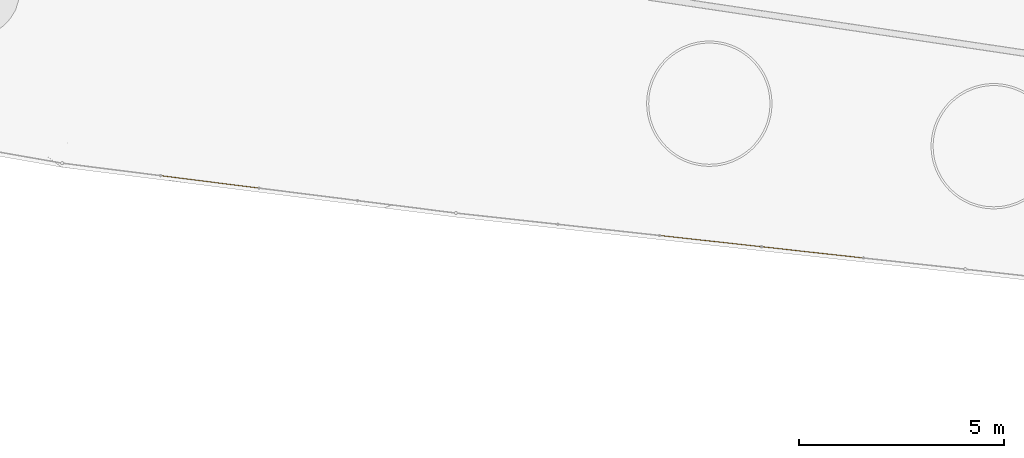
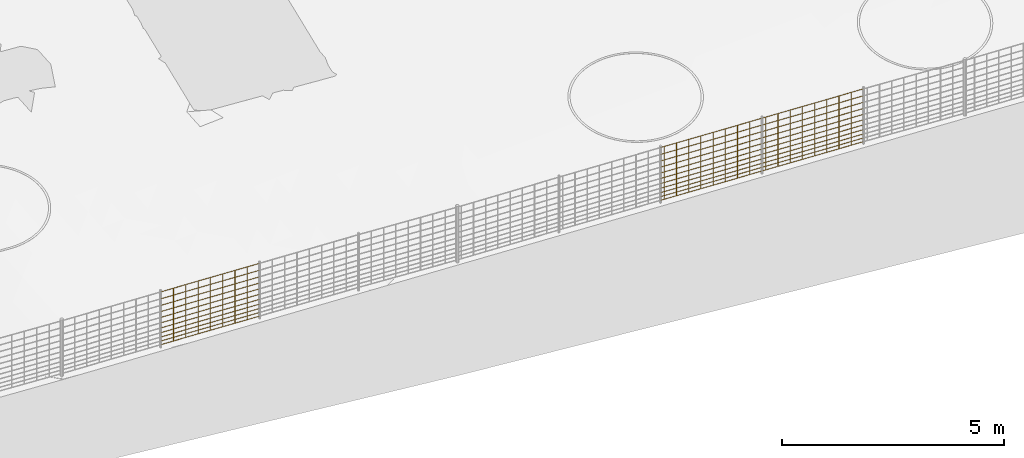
# Not in any storey, part 28 of 72: 3 railings.
"""IFC4 model written with IfcOpenShell, lengths in metres."""

from ifc_helpers import new_model, si_unit, direction, frame, origin_with_axes, place, context, subcontext, project, spatial, polygons, material, element, save


model = new_model("IFC4")

# Units and contexts
model_context = context("Model", 3, precision=1e-05, world=origin_with_axes(), true_north=direction((0.0, 1.0)))
body_context = subcontext(model_context, "Body", "Model", "MODEL_VIEW")
ifc_project = project(units=[si_unit("VOLUMEUNIT", "CUBIC_METRE"), si_unit("LENGTHUNIT", "METRE"), si_unit("AREAUNIT", "SQUARE_METRE")], contexts=[model_context])

# Site
site_placement = place(None, origin_with_axes())
site = spatial("IfcSite", under=ifc_project, at=site_placement, Name="Lares · Rua das Mercês · artigo 4771")

# Railings
ifc_material = material(Name="Aço galvanizado / Stahl verzinkt", Category="steel")
railing_1_placement = place(site_placement, frame((0.0, 0.0, 0.0), z_axis=(0.0, 0.0, 1.0), x_axis=(1.0, -1.03767253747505e-17, 0.0)))
element("IfcRailing", 1, at=railing_1_placement, inside=site, material=ifc_material, Name="Vedação · rede ovelheira 1.028", ObjectType="SHEEP_WIRE_FENCE", PredefinedType="USERDEFINED", context=body_context, shape_type="Tessellation", body=[
    polygons([(20.9791119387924, 0.558085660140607, 12.545145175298), (20.9790096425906, 0.556587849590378, 12.5436464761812), (20.9787831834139, 0.555103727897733, 12.545145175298), (20.9788854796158, 0.556601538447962, 12.5466438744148), (18.4992401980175, 0.831489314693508, 12.4411713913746), (18.4991379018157, 0.829991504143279, 12.4396726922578), (18.498911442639, 0.828507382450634, 12.4411713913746), (18.4990137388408, 0.830005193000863, 12.4426700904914), (20.9791119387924, 0.558085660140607, 12.645145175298), (20.9790096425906, 0.556587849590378, 12.6436464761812), (20.9787831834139, 0.555103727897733, 12.645145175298), (20.9788854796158, 0.556601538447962, 12.6466438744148), (18.4992401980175, 0.831489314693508, 12.5411713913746), (18.4991379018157, 0.829991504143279, 12.5396726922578), (18.498911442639, 0.828507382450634, 12.5411713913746), (18.4990137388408, 0.830005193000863, 12.5426700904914), (20.9791119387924, 0.558085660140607, 12.755145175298), (20.9790096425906, 0.556587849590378, 12.7536464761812), (20.9787831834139, 0.555103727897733, 12.755145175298), (20.9788854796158, 0.556601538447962, 12.7566438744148), (18.4992401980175, 0.831489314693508, 12.6511713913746), (18.4991379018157, 0.829991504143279, 12.6496726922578), (18.498911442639, 0.828507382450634, 12.6511713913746), (18.4990137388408, 0.830005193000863, 12.6526700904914), (20.9791119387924, 0.558085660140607, 12.875145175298), (20.9790096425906, 0.556587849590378, 12.8736464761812), (20.9787831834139, 0.555103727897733, 12.875145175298), (20.9788854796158, 0.556601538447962, 12.8766438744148), (18.4992401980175, 0.831489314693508, 12.7711713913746), (18.4991379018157, 0.829991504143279, 12.7696726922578), (18.498911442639, 0.828507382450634, 12.7711713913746), (18.4990137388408, 0.830005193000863, 12.7726700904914), (20.9791119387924, 0.558085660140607, 13.005145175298), (20.9790096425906, 0.556587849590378, 13.0036464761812), (20.9787831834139, 0.555103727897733, 13.005145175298), (20.9788854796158, 0.556601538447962, 13.0066438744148), (18.4992401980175, 0.831489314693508, 12.9011713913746), (18.4991379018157, 0.829991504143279, 12.8996726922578), (18.498911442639, 0.828507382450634, 12.9011713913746), (18.4990137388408, 0.830005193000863, 12.9026700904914), (20.9791119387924, 0.558085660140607, 13.145145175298), (20.9790096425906, 0.556587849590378, 13.1436464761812), (20.9787831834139, 0.555103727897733, 13.145145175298), (20.9788854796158, 0.556601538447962, 13.1466438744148), (18.4992401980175, 0.831489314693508, 13.0411713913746), (18.4991379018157, 0.829991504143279, 13.0396726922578), (18.498911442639, 0.828507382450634, 13.0411713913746), (18.4990137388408, 0.830005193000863, 13.0426700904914), (20.9791119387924, 0.558085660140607, 13.295145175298), (20.9790096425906, 0.556587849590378, 13.2936464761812), (20.9787831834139, 0.555103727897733, 13.295145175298), (20.9788854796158, 0.556601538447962, 13.2966438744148), (18.4992401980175, 0.831489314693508, 13.1911713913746), (18.4991379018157, 0.829991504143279, 13.1896726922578), (18.498911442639, 0.828507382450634, 13.1911713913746), (18.4990137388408, 0.830005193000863, 13.1926700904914), (20.9791119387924, 0.558085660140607, 13.455145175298), (20.9790096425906, 0.556587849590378, 13.4536464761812), (20.9787831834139, 0.555103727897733, 13.455145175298), (20.9788854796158, 0.556601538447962, 13.4566438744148), (18.4992401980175, 0.831489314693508, 13.3511713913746), (18.4991379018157, 0.829991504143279, 13.3496726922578), (18.498911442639, 0.828507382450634, 13.3511713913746), (18.4990137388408, 0.830005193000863, 13.3526700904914), (20.9791119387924, 0.558085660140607, 13.625145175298), (20.9790096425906, 0.556587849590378, 13.6236464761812), (20.9787831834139, 0.555103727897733, 13.625145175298), (20.9788854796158, 0.556601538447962, 13.6266438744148), (18.4992401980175, 0.831489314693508, 13.5211713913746), (18.4991379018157, 0.829991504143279, 13.5196726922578), (18.498911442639, 0.828507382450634, 13.5211713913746), (18.4990137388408, 0.830005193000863, 13.5226700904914), (20.9791119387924, 0.558085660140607, 13.805145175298), (20.9790096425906, 0.556587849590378, 13.8036464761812), (20.9787831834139, 0.555103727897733, 13.805145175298), (20.9788854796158, 0.556601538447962, 13.8066438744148), (18.4992401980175, 0.831489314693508, 13.7011713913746), (18.4991379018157, 0.829991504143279, 13.6996726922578), (18.498911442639, 0.828507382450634, 13.7011713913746), (18.4990137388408, 0.830005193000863, 13.7026700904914), (20.9791119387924, 0.558085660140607, 13.995145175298), (20.9790096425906, 0.556587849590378, 13.9936464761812), (20.9787831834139, 0.555103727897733, 13.995145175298), (20.9788854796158, 0.556601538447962, 13.9966438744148), (18.4992401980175, 0.831489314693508, 13.8911713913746), (18.4991379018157, 0.829991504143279, 13.8896726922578), (18.498911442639, 0.828507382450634, 13.8911713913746), (18.4990137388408, 0.830005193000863, 13.8926700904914), (20.6807543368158, 0.590970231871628, 12.5326428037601), (20.6792543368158, 0.589470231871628, 12.5326428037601), (20.6807543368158, 0.587970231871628, 12.5326428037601), (20.6822543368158, 0.589470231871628, 12.5326428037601), (20.6807543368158, 0.590970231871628, 13.9826428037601), (20.6792543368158, 0.589470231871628, 13.9826428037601), (20.6807543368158, 0.587970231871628, 13.9826428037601), (20.6822543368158, 0.589470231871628, 13.9826428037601), (20.3825611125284, 0.623845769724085, 12.5201404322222), (20.3810611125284, 0.622345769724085, 12.5201404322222), (20.3825611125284, 0.620845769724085, 12.5201404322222), (20.3840611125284, 0.622345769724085, 12.5201404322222), (20.3825611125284, 0.623845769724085, 13.9701404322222), (20.3810611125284, 0.622345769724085, 13.9701404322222), (20.3825611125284, 0.620845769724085, 13.9701404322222), (20.3840611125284, 0.622345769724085, 13.9701404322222), (20.084367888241, 0.656721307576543, 12.5076380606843), (20.082867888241, 0.655221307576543, 12.5076380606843), (20.084367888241, 0.653721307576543, 12.5076380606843), (20.085867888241, 0.655221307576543, 12.5076380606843), (20.084367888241, 0.656721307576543, 13.9576380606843), (20.082867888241, 0.655221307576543, 13.9576380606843), (20.084367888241, 0.653721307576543, 13.9576380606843), (20.085867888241, 0.655221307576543, 13.9576380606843), (19.7861746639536, 0.689596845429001, 12.4951356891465), (19.7846746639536, 0.688096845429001, 12.4951356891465), (19.7861746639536, 0.686596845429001, 12.4951356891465), (19.7876746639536, 0.688096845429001, 12.4951356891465), (19.7861746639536, 0.689596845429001, 13.9451356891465), (19.7846746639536, 0.688096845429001, 13.9451356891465), (19.7861746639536, 0.686596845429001, 13.9451356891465), (19.7876746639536, 0.688096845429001, 13.9451356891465), (19.4879814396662, 0.722472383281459, 12.4826333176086), (19.4864814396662, 0.720972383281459, 12.4826333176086), (19.4879814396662, 0.719472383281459, 12.4826333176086), (19.4894814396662, 0.720972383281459, 12.4826333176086), (19.4879814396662, 0.722472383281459, 13.9326333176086), (19.4864814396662, 0.720972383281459, 13.9326333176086), (19.4879814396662, 0.719472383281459, 13.9326333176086), (19.4894814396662, 0.720972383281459, 13.9326333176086), (19.1897882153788, 0.755347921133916, 12.4701309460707), (19.1882882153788, 0.753847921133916, 12.4701309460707), (19.1897882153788, 0.752347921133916, 12.4701309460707), (19.1912882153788, 0.753847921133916, 12.4701309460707), (19.1897882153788, 0.755347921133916, 13.9201309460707), (19.1882882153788, 0.753847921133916, 13.9201309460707), (19.1897882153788, 0.752347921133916, 13.9201309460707), (19.1912882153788, 0.753847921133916, 13.9201309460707), (18.8915949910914, 0.788223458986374, 12.4576285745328), (18.8900949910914, 0.786723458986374, 12.4576285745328), (18.8915949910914, 0.785223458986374, 12.4576285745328), (18.8930949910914, 0.786723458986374, 12.4576285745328), (18.8915949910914, 0.788223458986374, 13.9076285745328), (18.8900949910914, 0.786723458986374, 13.9076285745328), (18.8915949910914, 0.785223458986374, 13.9076285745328), (18.8930949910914, 0.786723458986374, 13.9076285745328), (18.593401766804, 0.821098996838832, 12.4451262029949), (18.591901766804, 0.819598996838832, 12.4451262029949), (18.593401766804, 0.818098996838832, 12.4451262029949), (18.594901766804, 0.819598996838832, 12.4451262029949), (18.593401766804, 0.821098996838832, 13.8951262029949), (18.591901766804, 0.819598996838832, 13.8951262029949), (18.593401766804, 0.818098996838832, 13.8951262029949), (18.594901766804, 0.819598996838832, 13.8951262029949)], [[[4, 3, 2, 1]], [[5, 6, 7, 8]], [[1, 2, 6, 5]], [[2, 3, 7, 6]], [[3, 4, 8, 7]], [[4, 1, 5, 8]], [[12, 11, 10, 9]], [[13, 14, 15, 16]], [[9, 10, 14, 13]], [[10, 11, 15, 14]], [[11, 12, 16, 15]], [[12, 9, 13, 16]], [[20, 19, 18, 17]], [[21, 22, 23, 24]], [[17, 18, 22, 21]], [[18, 19, 23, 22]], [[19, 20, 24, 23]], [[20, 17, 21, 24]], [[28, 27, 26, 25]], [[29, 30, 31, 32]], [[25, 26, 30, 29]], [[26, 27, 31, 30]], [[27, 28, 32, 31]], [[28, 25, 29, 32]], [[36, 35, 34, 33]], [[37, 38, 39, 40]], [[33, 34, 38, 37]], [[34, 35, 39, 38]], [[35, 36, 40, 39]], [[36, 33, 37, 40]], [[44, 43, 42, 41]], [[45, 46, 47, 48]], [[41, 42, 46, 45]], [[42, 43, 47, 46]], [[43, 44, 48, 47]], [[44, 41, 45, 48]], [[52, 51, 50, 49]], [[53, 54, 55, 56]], [[49, 50, 54, 53]], [[50, 51, 55, 54]], [[51, 52, 56, 55]], [[52, 49, 53, 56]], [[60, 59, 58, 57]], [[61, 62, 63, 64]], [[57, 58, 62, 61]], [[58, 59, 63, 62]], [[59, 60, 64, 63]], [[60, 57, 61, 64]], [[68, 67, 66, 65]], [[69, 70, 71, 72]], [[65, 66, 70, 69]], [[66, 67, 71, 70]], [[67, 68, 72, 71]], [[68, 65, 69, 72]], [[76, 75, 74, 73]], [[77, 78, 79, 80]], [[73, 74, 78, 77]], [[74, 75, 79, 78]], [[75, 76, 80, 79]], [[76, 73, 77, 80]], [[84, 83, 82, 81]], [[85, 86, 87, 88]], [[81, 82, 86, 85]], [[82, 83, 87, 86]], [[83, 84, 88, 87]], [[84, 81, 85, 88]], [[92, 91, 90, 89]], [[93, 94, 95, 96]], [[89, 90, 94, 93]], [[90, 91, 95, 94]], [[91, 92, 96, 95]], [[92, 89, 93, 96]], [[100, 99, 98, 97]], [[101, 102, 103, 104]], [[97, 98, 102, 101]], [[98, 99, 103, 102]], [[99, 100, 104, 103]], [[100, 97, 101, 104]], [[108, 107, 106, 105]], [[109, 110, 111, 112]], [[105, 106, 110, 109]], [[106, 107, 111, 110]], [[107, 108, 112, 111]], [[108, 105, 109, 112]], [[116, 115, 114, 113]], [[117, 118, 119, 120]], [[113, 114, 118, 117]], [[114, 115, 119, 118]], [[115, 116, 120, 119]], [[116, 113, 117, 120]], [[124, 123, 122, 121]], [[125, 126, 127, 128]], [[121, 122, 126, 125]], [[122, 123, 127, 126]], [[123, 124, 128, 127]], [[124, 121, 125, 128]], [[132, 131, 130, 129]], [[133, 134, 135, 136]], [[129, 130, 134, 133]], [[130, 131, 135, 134]], [[131, 132, 136, 135]], [[132, 129, 133, 136]], [[140, 139, 138, 137]], [[141, 142, 143, 144]], [[137, 138, 142, 141]], [[138, 139, 143, 142]], [[139, 140, 144, 143]], [[140, 137, 141, 144]], [[148, 147, 146, 145]], [[149, 150, 151, 152]], [[145, 146, 150, 149]], [[146, 147, 151, 150]], [[147, 148, 152, 151]], [[148, 145, 149, 152]]]),
])
railing_2_placement = place(site_placement, frame((0.0, 0.0, 0.0), z_axis=(0.0, 0.0, 1.0), x_axis=(1.0, -1.03767253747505e-17, 0.0)))
element("IfcRailing", 2, at=railing_2_placement, inside=site, material=ifc_material, Name="Vedação · rede ovelheira 1.029", ObjectType="SHEEP_WIRE_FENCE", PredefinedType="USERDEFINED", context=body_context, shape_type="Tessellation", body=[
    polygons([(18.4992401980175, 0.831489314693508, 12.4411713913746), (18.4991379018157, 0.829991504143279, 12.4396726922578), (18.498911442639, 0.828507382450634, 12.4411713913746), (18.4990137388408, 0.830005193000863, 12.4426700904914), (16.0193684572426, 1.10489296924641, 12.3371976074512), (16.0192661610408, 1.10339515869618, 12.3356989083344), (16.0190397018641, 1.10191103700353, 12.3371976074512), (16.0191419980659, 1.10340884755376, 12.338696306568), (18.4992401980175, 0.831489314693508, 12.5411713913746), (18.4991379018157, 0.829991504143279, 12.5396726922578), (18.498911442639, 0.828507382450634, 12.5411713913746), (18.4990137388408, 0.830005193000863, 12.5426700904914), (16.0193684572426, 1.10489296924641, 12.4371976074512), (16.0192661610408, 1.10339515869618, 12.4356989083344), (16.0190397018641, 1.10191103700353, 12.4371976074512), (16.0191419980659, 1.10340884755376, 12.438696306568), (18.4992401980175, 0.831489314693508, 12.6511713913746), (18.4991379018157, 0.829991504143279, 12.6496726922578), (18.498911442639, 0.828507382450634, 12.6511713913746), (18.4990137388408, 0.830005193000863, 12.6526700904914), (16.0193684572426, 1.10489296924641, 12.5471976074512), (16.0192661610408, 1.10339515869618, 12.5456989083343), (16.0190397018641, 1.10191103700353, 12.5471976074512), (16.0191419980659, 1.10340884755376, 12.548696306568), (18.4992401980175, 0.831489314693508, 12.7711713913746), (18.4991379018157, 0.829991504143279, 12.7696726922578), (18.498911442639, 0.828507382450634, 12.7711713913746), (18.4990137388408, 0.830005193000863, 12.7726700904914), (16.0193684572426, 1.10489296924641, 12.6671976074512), (16.0192661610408, 1.10339515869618, 12.6656989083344), (16.0190397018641, 1.10191103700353, 12.6671976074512), (16.0191419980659, 1.10340884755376, 12.668696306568), (18.4992401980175, 0.831489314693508, 12.9011713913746), (18.4991379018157, 0.829991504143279, 12.8996726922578), (18.498911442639, 0.828507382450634, 12.9011713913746), (18.4990137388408, 0.830005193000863, 12.9026700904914), (16.0193684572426, 1.10489296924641, 12.7971976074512), (16.0192661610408, 1.10339515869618, 12.7956989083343), (16.0190397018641, 1.10191103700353, 12.7971976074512), (16.0191419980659, 1.10340884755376, 12.798696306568), (18.4992401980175, 0.831489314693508, 13.0411713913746), (18.4991379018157, 0.829991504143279, 13.0396726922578), (18.498911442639, 0.828507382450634, 13.0411713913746), (18.4990137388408, 0.830005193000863, 13.0426700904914), (16.0193684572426, 1.10489296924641, 12.9371976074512), (16.0192661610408, 1.10339515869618, 12.9356989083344), (16.0190397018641, 1.10191103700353, 12.9371976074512), (16.0191419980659, 1.10340884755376, 12.938696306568), (18.4992401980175, 0.831489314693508, 13.1911713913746), (18.4991379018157, 0.829991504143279, 13.1896726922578), (18.498911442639, 0.828507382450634, 13.1911713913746), (18.4990137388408, 0.830005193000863, 13.1926700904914), (16.0193684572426, 1.10489296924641, 13.0871976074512), (16.0192661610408, 1.10339515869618, 13.0856989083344), (16.0190397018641, 1.10191103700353, 13.0871976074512), (16.0191419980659, 1.10340884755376, 13.088696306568), (18.4992401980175, 0.831489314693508, 13.3511713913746), (18.4991379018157, 0.829991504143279, 13.3496726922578), (18.498911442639, 0.828507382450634, 13.3511713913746), (18.4990137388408, 0.830005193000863, 13.3526700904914), (16.0193684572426, 1.10489296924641, 13.2471976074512), (16.0192661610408, 1.10339515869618, 13.2456989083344), (16.0190397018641, 1.10191103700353, 13.2471976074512), (16.0191419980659, 1.10340884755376, 13.248696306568), (18.4992401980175, 0.831489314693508, 13.5211713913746), (18.4991379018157, 0.829991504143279, 13.5196726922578), (18.498911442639, 0.828507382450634, 13.5211713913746), (18.4990137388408, 0.830005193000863, 13.5226700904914), (16.0193684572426, 1.10489296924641, 13.4171976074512), (16.0192661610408, 1.10339515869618, 13.4156989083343), (16.0190397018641, 1.10191103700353, 13.4171976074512), (16.0191419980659, 1.10340884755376, 13.418696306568), (18.4992401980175, 0.831489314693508, 13.7011713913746), (18.4991379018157, 0.829991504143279, 13.6996726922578), (18.498911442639, 0.828507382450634, 13.7011713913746), (18.4990137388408, 0.830005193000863, 13.7026700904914), (16.0193684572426, 1.10489296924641, 13.5971976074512), (16.0192661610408, 1.10339515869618, 13.5956989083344), (16.0190397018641, 1.10191103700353, 13.5971976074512), (16.0191419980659, 1.10340884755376, 13.598696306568), (18.4992401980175, 0.831489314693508, 13.8911713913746), (18.4991379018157, 0.829991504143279, 13.8896726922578), (18.498911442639, 0.828507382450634, 13.8911713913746), (18.4990137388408, 0.830005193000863, 13.8926700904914), (16.0193684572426, 1.10489296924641, 13.7871976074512), (16.0192661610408, 1.10339515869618, 13.7856989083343), (16.0190397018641, 1.10191103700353, 13.7871976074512), (16.0191419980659, 1.10340884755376, 13.788696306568), (18.2008825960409, 0.864373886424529, 12.4286690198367), (18.1993825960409, 0.862873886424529, 12.4286690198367), (18.2008825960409, 0.861373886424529, 12.4286690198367), (18.2023825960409, 0.862873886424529, 12.4286690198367), (18.2008825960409, 0.864373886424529, 13.8786690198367), (18.1993825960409, 0.862873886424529, 13.8786690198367), (18.2008825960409, 0.861373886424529, 13.8786690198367), (18.2023825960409, 0.862873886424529, 13.8786690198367), (17.9026893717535, 0.897249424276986, 12.4161666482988), (17.9011893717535, 0.895749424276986, 12.4161666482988), (17.9026893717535, 0.894249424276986, 12.4161666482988), (17.9041893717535, 0.895749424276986, 12.4161666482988), (17.9026893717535, 0.897249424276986, 13.8661666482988), (17.9011893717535, 0.895749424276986, 13.8661666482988), (17.9026893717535, 0.894249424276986, 13.8661666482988), (17.9041893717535, 0.895749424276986, 13.8661666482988), (17.6044961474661, 0.930124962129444, 12.4036642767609), (17.6029961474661, 0.928624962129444, 12.4036642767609), (17.6044961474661, 0.927124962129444, 12.4036642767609), (17.6059961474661, 0.928624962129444, 12.4036642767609), (17.6044961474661, 0.930124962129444, 13.8536642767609), (17.6029961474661, 0.928624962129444, 13.8536642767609), (17.6044961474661, 0.927124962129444, 13.8536642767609), (17.6059961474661, 0.928624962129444, 13.8536642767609), (17.3063029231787, 0.963000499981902, 12.391161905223), (17.3048029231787, 0.961500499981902, 12.391161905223), (17.3063029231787, 0.960000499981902, 12.391161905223), (17.3078029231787, 0.961500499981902, 12.391161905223), (17.3063029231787, 0.963000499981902, 13.841161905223), (17.3048029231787, 0.961500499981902, 13.841161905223), (17.3063029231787, 0.960000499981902, 13.841161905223), (17.3078029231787, 0.961500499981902, 13.841161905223), (17.0081096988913, 0.995876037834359, 12.3786595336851), (17.0066096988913, 0.994376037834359, 12.3786595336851), (17.0081096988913, 0.992876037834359, 12.3786595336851), (17.0096096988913, 0.994376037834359, 12.3786595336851), (17.0081096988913, 0.995876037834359, 13.8286595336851), (17.0066096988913, 0.994376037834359, 13.8286595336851), (17.0081096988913, 0.992876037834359, 13.8286595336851), (17.0096096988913, 0.994376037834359, 13.8286595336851), (16.7099164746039, 1.02875157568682, 12.3661571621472), (16.7084164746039, 1.02725157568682, 12.3661571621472), (16.7099164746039, 1.02575157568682, 12.3661571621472), (16.7114164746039, 1.02725157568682, 12.3661571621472), (16.7099164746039, 1.02875157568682, 13.8161571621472), (16.7084164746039, 1.02725157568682, 13.8161571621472), (16.7099164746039, 1.02575157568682, 13.8161571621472), (16.7114164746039, 1.02725157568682, 13.8161571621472), (16.4117232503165, 1.06162711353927, 12.3536547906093), (16.4102232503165, 1.06012711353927, 12.3536547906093), (16.4117232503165, 1.05862711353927, 12.3536547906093), (16.4132232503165, 1.06012711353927, 12.3536547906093), (16.4117232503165, 1.06162711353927, 13.8036547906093), (16.4102232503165, 1.06012711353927, 13.8036547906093), (16.4117232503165, 1.05862711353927, 13.8036547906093), (16.4132232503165, 1.06012711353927, 13.8036547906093), (16.1135300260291, 1.09450265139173, 12.3411524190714), (16.1120300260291, 1.09300265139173, 12.3411524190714), (16.1135300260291, 1.09150265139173, 12.3411524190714), (16.1150300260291, 1.09300265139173, 12.3411524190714), (16.1135300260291, 1.09450265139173, 13.7911524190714), (16.1120300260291, 1.09300265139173, 13.7911524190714), (16.1135300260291, 1.09150265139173, 13.7911524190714), (16.1150300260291, 1.09300265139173, 13.7911524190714)], [[[4, 3, 2, 1]], [[5, 6, 7, 8]], [[1, 2, 6, 5]], [[2, 3, 7, 6]], [[3, 4, 8, 7]], [[4, 1, 5, 8]], [[12, 11, 10, 9]], [[13, 14, 15, 16]], [[9, 10, 14, 13]], [[10, 11, 15, 14]], [[11, 12, 16, 15]], [[12, 9, 13, 16]], [[20, 19, 18, 17]], [[21, 22, 23, 24]], [[17, 18, 22, 21]], [[18, 19, 23, 22]], [[19, 20, 24, 23]], [[20, 17, 21, 24]], [[28, 27, 26, 25]], [[29, 30, 31, 32]], [[25, 26, 30, 29]], [[26, 27, 31, 30]], [[27, 28, 32, 31]], [[28, 25, 29, 32]], [[36, 35, 34, 33]], [[37, 38, 39, 40]], [[33, 34, 38, 37]], [[34, 35, 39, 38]], [[35, 36, 40, 39]], [[36, 33, 37, 40]], [[44, 43, 42, 41]], [[45, 46, 47, 48]], [[41, 42, 46, 45]], [[42, 43, 47, 46]], [[43, 44, 48, 47]], [[44, 41, 45, 48]], [[52, 51, 50, 49]], [[53, 54, 55, 56]], [[49, 50, 54, 53]], [[50, 51, 55, 54]], [[51, 52, 56, 55]], [[52, 49, 53, 56]], [[60, 59, 58, 57]], [[61, 62, 63, 64]], [[57, 58, 62, 61]], [[58, 59, 63, 62]], [[59, 60, 64, 63]], [[60, 57, 61, 64]], [[68, 67, 66, 65]], [[69, 70, 71, 72]], [[65, 66, 70, 69]], [[66, 67, 71, 70]], [[67, 68, 72, 71]], [[68, 65, 69, 72]], [[76, 75, 74, 73]], [[77, 78, 79, 80]], [[73, 74, 78, 77]], [[74, 75, 79, 78]], [[75, 76, 80, 79]], [[76, 73, 77, 80]], [[84, 83, 82, 81]], [[85, 86, 87, 88]], [[81, 82, 86, 85]], [[82, 83, 87, 86]], [[83, 84, 88, 87]], [[84, 81, 85, 88]], [[92, 91, 90, 89]], [[93, 94, 95, 96]], [[89, 90, 94, 93]], [[90, 91, 95, 94]], [[91, 92, 96, 95]], [[92, 89, 93, 96]], [[100, 99, 98, 97]], [[101, 102, 103, 104]], [[97, 98, 102, 101]], [[98, 99, 103, 102]], [[99, 100, 104, 103]], [[100, 97, 101, 104]], [[108, 107, 106, 105]], [[109, 110, 111, 112]], [[105, 106, 110, 109]], [[106, 107, 111, 110]], [[107, 108, 112, 111]], [[108, 105, 109, 112]], [[116, 115, 114, 113]], [[117, 118, 119, 120]], [[113, 114, 118, 117]], [[114, 115, 119, 118]], [[115, 116, 120, 119]], [[116, 113, 117, 120]], [[124, 123, 122, 121]], [[125, 126, 127, 128]], [[121, 122, 126, 125]], [[122, 123, 127, 126]], [[123, 124, 128, 127]], [[124, 121, 125, 128]], [[132, 131, 130, 129]], [[133, 134, 135, 136]], [[129, 130, 134, 133]], [[130, 131, 135, 134]], [[131, 132, 136, 135]], [[132, 129, 133, 136]], [[140, 139, 138, 137]], [[141, 142, 143, 144]], [[137, 138, 142, 141]], [[138, 139, 143, 142]], [[139, 140, 144, 143]], [[140, 137, 141, 144]], [[148, 147, 146, 145]], [[149, 150, 151, 152]], [[145, 146, 150, 149]], [[146, 147, 151, 150]], [[147, 148, 152, 151]], [[148, 145, 149, 152]]]),
])
railing_3_placement = place(site_placement, frame((0.0, 0.0, 0.0), z_axis=(0.0, 0.0, 1.0), x_axis=(1.0, -1.03767253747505e-17, 0.0)))
element("IfcRailing", 3, at=railing_3_placement, inside=site, material=ifc_material, Name="Vedação · rede ovelheira 1.034", ObjectType="SHEEP_WIRE_FENCE", PredefinedType="USERDEFINED", context=body_context, shape_type="Tessellation", body=[
    polygons([(6.26836055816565, 2.25834338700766, 11.8734697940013), (6.26825323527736, 2.25684500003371, 11.8719720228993), (6.26798372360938, 2.25536714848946, 11.8734697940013), (6.26809104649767, 2.2568655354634, 11.8749675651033), (3.87271632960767, 2.56166636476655, 11.7416821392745), (3.87260900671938, 2.56016797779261, 11.7401843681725), (3.87233949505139, 2.55869012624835, 11.7416821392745), (3.87244681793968, 2.5601885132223, 11.7431799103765), (6.26836055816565, 2.25834338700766, 11.9734697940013), (6.26825323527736, 2.25684500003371, 11.9719720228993), (6.26798372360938, 2.25536714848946, 11.9734697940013), (6.26809104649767, 2.2568655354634, 11.9749675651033), (3.87271632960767, 2.56166636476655, 11.8416821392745), (3.87260900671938, 2.56016797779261, 11.8401843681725), (3.87233949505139, 2.55869012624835, 11.8416821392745), (3.87244681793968, 2.5601885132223, 11.8431799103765), (6.26836055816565, 2.25834338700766, 12.0834697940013), (6.26825323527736, 2.25684500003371, 12.0819720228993), (6.26798372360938, 2.25536714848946, 12.0834697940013), (6.26809104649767, 2.2568655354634, 12.0849675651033), (3.87271632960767, 2.56166636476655, 11.9516821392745), (3.87260900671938, 2.56016797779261, 11.9501843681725), (3.87233949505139, 2.55869012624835, 11.9516821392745), (3.87244681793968, 2.5601885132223, 11.9531799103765), (6.26836055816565, 2.25834338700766, 12.2034697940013), (6.26825323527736, 2.25684500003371, 12.2019720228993), (6.26798372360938, 2.25536714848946, 12.2034697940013), (6.26809104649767, 2.2568655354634, 12.2049675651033), (3.87271632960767, 2.56166636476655, 12.0716821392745), (3.87260900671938, 2.56016797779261, 12.0701843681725), (3.87233949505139, 2.55869012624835, 12.0716821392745), (3.87244681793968, 2.5601885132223, 12.0731799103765), (6.26836055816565, 2.25834338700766, 12.3334697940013), (6.26825323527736, 2.25684500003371, 12.3319720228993), (6.26798372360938, 2.25536714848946, 12.3334697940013), (6.26809104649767, 2.2568655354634, 12.3349675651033), (3.87271632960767, 2.56166636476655, 12.2016821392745), (3.87260900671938, 2.56016797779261, 12.2001843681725), (3.87233949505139, 2.55869012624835, 12.2016821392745), (3.87244681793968, 2.5601885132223, 12.2031799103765), (6.26836055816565, 2.25834338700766, 12.4734697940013), (6.26825323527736, 2.25684500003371, 12.4719720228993), (6.26798372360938, 2.25536714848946, 12.4734697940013), (6.26809104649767, 2.2568655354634, 12.4749675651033), (3.87271632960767, 2.56166636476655, 12.3416821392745), (3.87260900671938, 2.56016797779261, 12.3401843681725), (3.87233949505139, 2.55869012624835, 12.3416821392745), (3.87244681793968, 2.5601885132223, 12.3431799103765), (6.26836055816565, 2.25834338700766, 12.6234697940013), (6.26825323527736, 2.25684500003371, 12.6219720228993), (6.26798372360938, 2.25536714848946, 12.6234697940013), (6.26809104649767, 2.2568655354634, 12.6249675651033), (3.87271632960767, 2.56166636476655, 12.4916821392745), (3.87260900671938, 2.56016797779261, 12.4901843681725), (3.87233949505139, 2.55869012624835, 12.4916821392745), (3.87244681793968, 2.5601885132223, 12.4931799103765), (6.26836055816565, 2.25834338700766, 12.7834697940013), (6.26825323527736, 2.25684500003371, 12.7819720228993), (6.26798372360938, 2.25536714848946, 12.7834697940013), (6.26809104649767, 2.2568655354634, 12.7849675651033), (3.87271632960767, 2.56166636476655, 12.6516821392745), (3.87260900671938, 2.56016797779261, 12.6501843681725), (3.87233949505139, 2.55869012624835, 12.6516821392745), (3.87244681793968, 2.5601885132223, 12.6531799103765), (6.26836055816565, 2.25834338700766, 12.9534697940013), (6.26825323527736, 2.25684500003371, 12.9519720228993), (6.26798372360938, 2.25536714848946, 12.9534697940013), (6.26809104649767, 2.2568655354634, 12.9549675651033), (3.87271632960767, 2.56166636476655, 12.8216821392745), (3.87260900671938, 2.56016797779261, 12.8201843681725), (3.87233949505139, 2.55869012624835, 12.8216821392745), (3.87244681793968, 2.5601885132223, 12.8231799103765), (6.26836055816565, 2.25834338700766, 13.1334697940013), (6.26825323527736, 2.25684500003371, 13.1319720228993), (6.26798372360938, 2.25536714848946, 13.1334697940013), (6.26809104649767, 2.2568655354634, 13.1349675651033), (3.87271632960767, 2.56166636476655, 13.0016821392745), (3.87260900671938, 2.56016797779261, 13.0001843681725), (3.87233949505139, 2.55869012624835, 13.0016821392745), (3.87244681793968, 2.5601885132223, 13.0031799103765), (6.26836055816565, 2.25834338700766, 13.3234697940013), (6.26825323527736, 2.25684500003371, 13.3219720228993), (6.26798372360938, 2.25536714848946, 13.3234697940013), (6.26809104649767, 2.2568655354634, 13.3249675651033), (3.87271632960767, 2.56166636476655, 13.1916821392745), (3.87260900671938, 2.56016797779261, 13.1901843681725), (3.87233949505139, 2.55869012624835, 13.1916821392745), (3.87244681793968, 2.5601885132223, 13.1931799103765), (5.97054828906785, 2.296038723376, 11.8570971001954), (5.96904828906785, 2.294538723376, 11.8570971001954), (5.97054828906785, 2.293038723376, 11.8570971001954), (5.97204828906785, 2.294538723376, 11.8570971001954), (5.97054828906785, 2.296038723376, 13.3070971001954), (5.96904828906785, 2.294538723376, 13.3070971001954), (5.97054828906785, 2.293038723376, 13.3070971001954), (5.97204828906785, 2.294538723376, 13.3070971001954), (5.67292443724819, 2.33372217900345, 11.8407244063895), (5.67142443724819, 2.33222217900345, 11.8407244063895), (5.67292443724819, 2.33072217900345, 11.8407244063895), (5.67442443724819, 2.33222217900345, 11.8407244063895), (5.67292443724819, 2.33372217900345, 13.2907244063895), (5.67142443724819, 2.33222217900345, 13.2907244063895), (5.67292443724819, 2.33072217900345, 13.2907244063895), (5.67442443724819, 2.33222217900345, 13.2907244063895), (5.37530058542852, 2.3714056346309, 11.8243517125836), (5.37380058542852, 2.3699056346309, 11.8243517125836), (5.37530058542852, 2.3684056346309, 11.8243517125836), (5.37680058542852, 2.3699056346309, 11.8243517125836), (5.37530058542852, 2.3714056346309, 13.2743517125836), (5.37380058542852, 2.3699056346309, 13.2743517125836), (5.37530058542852, 2.3684056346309, 13.2743517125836), (5.37680058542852, 2.3699056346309, 13.2743517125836), (5.07767673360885, 2.40908909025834, 11.8079790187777), (5.07617673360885, 2.40758909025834, 11.8079790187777), (5.07767673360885, 2.40608909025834, 11.8079790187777), (5.07917673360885, 2.40758909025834, 11.8079790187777), (5.07767673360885, 2.40908909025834, 13.2579790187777), (5.07617673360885, 2.40758909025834, 13.2579790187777), (5.07767673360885, 2.40608909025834, 13.2579790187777), (5.07917673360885, 2.40758909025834, 13.2579790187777), (4.78005288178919, 2.44677254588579, 11.7916063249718), (4.77855288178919, 2.44527254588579, 11.7916063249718), (4.78005288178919, 2.44377254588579, 11.7916063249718), (4.78155288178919, 2.44527254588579, 11.7916063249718), (4.78005288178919, 2.44677254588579, 13.2416063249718), (4.77855288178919, 2.44527254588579, 13.2416063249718), (4.78005288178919, 2.44377254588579, 13.2416063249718), (4.78155288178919, 2.44527254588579, 13.2416063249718), (4.48242902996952, 2.48445600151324, 11.7752336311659), (4.48092902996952, 2.48295600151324, 11.7752336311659), (4.48242902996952, 2.48145600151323, 11.7752336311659), (4.48392902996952, 2.48295600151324, 11.7752336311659), (4.48242902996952, 2.48445600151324, 13.2252336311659), (4.48092902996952, 2.48295600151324, 13.2252336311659), (4.48242902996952, 2.48145600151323, 13.2252336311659), (4.48392902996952, 2.48295600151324, 13.2252336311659), (4.18480517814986, 2.52213945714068, 11.75886093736), (4.18330517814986, 2.52063945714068, 11.75886093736), (4.18480517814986, 2.51913945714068, 11.75886093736), (4.18630517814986, 2.52063945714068, 11.75886093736), (4.18480517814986, 2.52213945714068, 13.20886093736), (4.18330517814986, 2.52063945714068, 13.20886093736), (4.18480517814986, 2.51913945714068, 13.20886093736), (4.18630517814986, 2.52063945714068, 13.20886093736)], [[[4, 3, 2, 1]], [[5, 6, 7, 8]], [[1, 2, 6, 5]], [[2, 3, 7, 6]], [[3, 4, 8, 7]], [[4, 1, 5, 8]], [[12, 11, 10, 9]], [[13, 14, 15, 16]], [[9, 10, 14, 13]], [[10, 11, 15, 14]], [[11, 12, 16, 15]], [[12, 9, 13, 16]], [[20, 19, 18, 17]], [[21, 22, 23, 24]], [[17, 18, 22, 21]], [[18, 19, 23, 22]], [[19, 20, 24, 23]], [[20, 17, 21, 24]], [[28, 27, 26, 25]], [[29, 30, 31, 32]], [[25, 26, 30, 29]], [[26, 27, 31, 30]], [[27, 28, 32, 31]], [[28, 25, 29, 32]], [[36, 35, 34, 33]], [[37, 38, 39, 40]], [[33, 34, 38, 37]], [[34, 35, 39, 38]], [[35, 36, 40, 39]], [[36, 33, 37, 40]], [[44, 43, 42, 41]], [[45, 46, 47, 48]], [[41, 42, 46, 45]], [[42, 43, 47, 46]], [[43, 44, 48, 47]], [[44, 41, 45, 48]], [[52, 51, 50, 49]], [[53, 54, 55, 56]], [[49, 50, 54, 53]], [[50, 51, 55, 54]], [[51, 52, 56, 55]], [[52, 49, 53, 56]], [[60, 59, 58, 57]], [[61, 62, 63, 64]], [[57, 58, 62, 61]], [[58, 59, 63, 62]], [[59, 60, 64, 63]], [[60, 57, 61, 64]], [[68, 67, 66, 65]], [[69, 70, 71, 72]], [[65, 66, 70, 69]], [[66, 67, 71, 70]], [[67, 68, 72, 71]], [[68, 65, 69, 72]], [[76, 75, 74, 73]], [[77, 78, 79, 80]], [[73, 74, 78, 77]], [[74, 75, 79, 78]], [[75, 76, 80, 79]], [[76, 73, 77, 80]], [[84, 83, 82, 81]], [[85, 86, 87, 88]], [[81, 82, 86, 85]], [[82, 83, 87, 86]], [[83, 84, 88, 87]], [[84, 81, 85, 88]], [[92, 91, 90, 89]], [[93, 94, 95, 96]], [[89, 90, 94, 93]], [[90, 91, 95, 94]], [[91, 92, 96, 95]], [[92, 89, 93, 96]], [[100, 99, 98, 97]], [[101, 102, 103, 104]], [[97, 98, 102, 101]], [[98, 99, 103, 102]], [[99, 100, 104, 103]], [[100, 97, 101, 104]], [[108, 107, 106, 105]], [[109, 110, 111, 112]], [[105, 106, 110, 109]], [[106, 107, 111, 110]], [[107, 108, 112, 111]], [[108, 105, 109, 112]], [[116, 115, 114, 113]], [[117, 118, 119, 120]], [[113, 114, 118, 117]], [[114, 115, 119, 118]], [[115, 116, 120, 119]], [[116, 113, 117, 120]], [[124, 123, 122, 121]], [[125, 126, 127, 128]], [[121, 122, 126, 125]], [[122, 123, 127, 126]], [[123, 124, 128, 127]], [[124, 121, 125, 128]], [[132, 131, 130, 129]], [[133, 134, 135, 136]], [[129, 130, 134, 133]], [[130, 131, 135, 134]], [[131, 132, 136, 135]], [[132, 129, 133, 136]], [[140, 139, 138, 137]], [[141, 142, 143, 144]], [[137, 138, 142, 141]], [[138, 139, 143, 142]], [[139, 140, 144, 143]], [[140, 137, 141, 144]]]),
])

save(model, "model.ifc")
